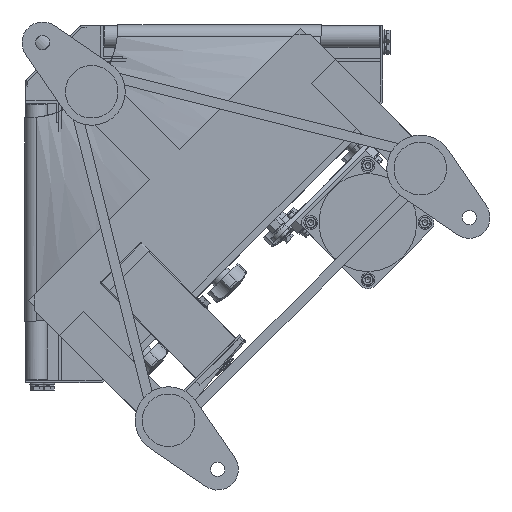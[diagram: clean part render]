
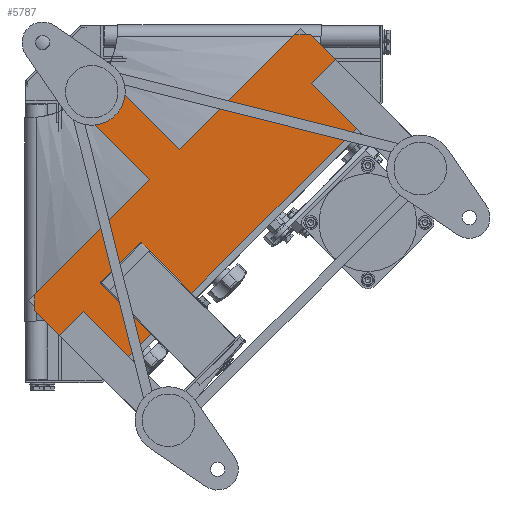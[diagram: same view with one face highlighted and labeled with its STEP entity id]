
A CAD part, front view. The second image highlights one B-rep face of the part: STEP entity #5787.
In plain terms, the highlighted planar face has unit normal (0, -1, 0).
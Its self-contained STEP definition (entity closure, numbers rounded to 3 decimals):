
#470 = VECTOR ( 'NONE', #28046, 1000. ) ;
#2544 = EDGE_CURVE ( 'NONE', #38639, #13959, #11730, .T. ) ;
#2603 = ORIENTED_EDGE ( 'NONE', *, *, #24976, .F. ) ;
#2790 = VERTEX_POINT ( 'NONE', #18233 ) ;
#3418 = ORIENTED_EDGE ( 'NONE', *, *, #36427, .T. ) ;
#3494 = DIRECTION ( 'NONE',  ( 0., 0., -1. ) ) ;
#3578 = CARTESIAN_POINT ( 'NONE',  ( 12.728, -167.5, -39.598 ) ) ;
#4856 = ORIENTED_EDGE ( 'NONE', *, *, #20957, .T. ) ;
#5787 = ADVANCED_FACE ( 'NONE', ( #52375 ), #17433, .T. ) ;
#5843 = VERTEX_POINT ( 'NONE', #34835 ) ;
#5934 = CARTESIAN_POINT ( 'NONE',  ( 245.012, -167.5, -8.132 ) ) ;
#6738 = DIRECTION ( 'NONE',  ( 0.707, 0., -0.707 ) ) ;
#7758 = ORIENTED_EDGE ( 'NONE', *, *, #2544, .T. ) ;
#7765 = DIRECTION ( 'NONE',  ( 0.707, 0., 0.707 ) ) ;
#9272 = LINE ( 'NONE', #17632, #57408 ) ;
#9826 = VECTOR ( 'NONE', #54470, 1000. ) ;
#10572 = LINE ( 'NONE', #32714, #21249 ) ;
#11456 = DIRECTION ( 'NONE',  ( -0.707, 0., -0.707 ) ) ;
#11730 = LINE ( 'NONE', #25745, #53501 ) ;
#11866 = VERTEX_POINT ( 'NONE', #31348 ) ;
#12815 = CARTESIAN_POINT ( 'NONE',  ( 8.132, -167.5, -245.012 ) ) ;
#13044 = DIRECTION ( 'NONE',  ( -0.707, 0., 0.707 ) ) ;
#13959 = VERTEX_POINT ( 'NONE', #37089 ) ;
#14790 = CARTESIAN_POINT ( 'NONE',  ( 39.598, -167.5, -12.728 ) ) ;
#15273 = DIRECTION ( 'NONE',  ( 0.707, 0., -0.707 ) ) ;
#15346 = VERTEX_POINT ( 'NONE', #28750 ) ;
#15620 = ORIENTED_EDGE ( 'NONE', *, *, #41432, .T. ) ;
#16642 = VECTOR ( 'NONE', #7765, 1000. ) ;
#17433 = PLANE ( 'NONE',  #18665 ) ;
#17632 = CARTESIAN_POINT ( 'NONE',  ( 259.155, -167.5, -8.132 ) ) ;
#18233 = CARTESIAN_POINT ( 'NONE',  ( 12.728, -167.5, -39.598 ) ) ;
#18665 = AXIS2_PLACEMENT_3D ( 'NONE', #30661, #40170, #3494 ) ;
#20490 = VERTEX_POINT ( 'NONE', #38413 ) ;
#20721 = EDGE_CURVE ( 'NONE', #5843, #25100, #30394, .T. ) ;
#20957 = EDGE_CURVE ( 'NONE', #15346, #11866, #45235, .T. ) ;
#21249 = VECTOR ( 'NONE', #15273, 1000. ) ;
#24976 = EDGE_CURVE ( 'NONE', #2790, #40043, #33559, .T. ) ;
#24984 = VECTOR ( 'NONE', #6738, 1000. ) ;
#25100 = VERTEX_POINT ( 'NONE', #40251 ) ;
#25745 = CARTESIAN_POINT ( 'NONE',  ( 8.132, -167.5, -245.012 ) ) ;
#25899 = ORIENTED_EDGE ( 'NONE', *, *, #26097, .T. ) ;
#26097 = EDGE_CURVE ( 'NONE', #11866, #5843, #10572, .T. ) ;
#26298 = EDGE_CURVE ( 'NONE', #20490, #15346, #50874, .T. ) ;
#26535 = EDGE_CURVE ( 'NONE', #40043, #13959, #37673, .T. ) ;
#28046 = DIRECTION ( 'NONE',  ( -0.707, 0., 0.707 ) ) ;
#28750 = CARTESIAN_POINT ( 'NONE',  ( 8.132, -167.5, -245.012 ) ) ;
#28846 = LINE ( 'NONE', #54880, #470 ) ;
#29461 = EDGE_CURVE ( 'NONE', #20490, #2790, #28846, .T. ) ;
#30394 = LINE ( 'NONE', #32667, #41010 ) ;
#30661 = CARTESIAN_POINT ( 'NONE',  ( 0., -167.5, 0. ) ) ;
#31348 = CARTESIAN_POINT ( 'NONE',  ( 8.132, -167.5, -259.155 ) ) ;
#32667 = CARTESIAN_POINT ( 'NONE',  ( 71.771, -167.5, -322.794 ) ) ;
#32714 = CARTESIAN_POINT ( 'NONE',  ( 8.132, -167.5, -259.155 ) ) ;
#33160 = VECTOR ( 'NONE', #42707, 1000. ) ;
#33559 = LINE ( 'NONE', #3578, #16642 ) ;
#34835 = CARTESIAN_POINT ( 'NONE',  ( 71.771, -167.5, -322.794 ) ) ;
#35549 = VERTEX_POINT ( 'NONE', #45491 ) ;
#36427 = EDGE_CURVE ( 'NONE', #35549, #38639, #55319, .T. ) ;
#37089 = CARTESIAN_POINT ( 'NONE',  ( 140.007, -167.5, -113.137 ) ) ;
#37673 = LINE ( 'NONE', #51847, #24984 ) ;
#38024 = DIRECTION ( 'NONE',  ( -1., 0., 0. ) ) ;
#38413 = CARTESIAN_POINT ( 'NONE',  ( 113.137, -167.5, -140.007 ) ) ;
#38639 = VERTEX_POINT ( 'NONE', #50992 ) ;
#39427 = ORIENTED_EDGE ( 'NONE', *, *, #29461, .F. ) ;
#40043 = VERTEX_POINT ( 'NONE', #14790 ) ;
#40170 = DIRECTION ( 'NONE',  ( 0., -1., 0. ) ) ;
#40251 = CARTESIAN_POINT ( 'NONE',  ( 322.794, -167.5, -71.771 ) ) ;
#41010 = VECTOR ( 'NONE', #46114, 1000. ) ;
#41432 = EDGE_CURVE ( 'NONE', #25100, #35549, #9272, .T. ) ;
#42519 = CARTESIAN_POINT ( 'NONE',  ( 8.132, -167.5, -259.155 ) ) ;
#42707 = DIRECTION ( 'NONE',  ( 0., 0., -1. ) ) ;
#43388 = VECTOR ( 'NONE', #38024, 1000. ) ;
#45235 = LINE ( 'NONE', #42519, #33160 ) ;
#45491 = CARTESIAN_POINT ( 'NONE',  ( 259.155, -167.5, -8.132 ) ) ;
#46114 = DIRECTION ( 'NONE',  ( 0.707, 0., 0.707 ) ) ;
#50577 = ORIENTED_EDGE ( 'NONE', *, *, #26535, .F. ) ;
#50866 = ORIENTED_EDGE ( 'NONE', *, *, #26298, .T. ) ;
#50874 = LINE ( 'NONE', #12815, #9826 ) ;
#50992 = CARTESIAN_POINT ( 'NONE',  ( 245.012, -167.5, -8.132 ) ) ;
#51847 = CARTESIAN_POINT ( 'NONE',  ( 39.598, -167.5, -12.728 ) ) ;
#52375 = FACE_OUTER_BOUND ( 'NONE', #52405, .T. ) ;
#52405 = EDGE_LOOP ( 'NONE', ( #39427, #50866, #4856, #25899, #52637, #15620, #3418, #7758, #50577, #2603 ) ) ;
#52637 = ORIENTED_EDGE ( 'NONE', *, *, #20721, .T. ) ;
#53501 = VECTOR ( 'NONE', #11456, 1000. ) ;
#54470 = DIRECTION ( 'NONE',  ( -0.707, 0., -0.707 ) ) ;
#54880 = CARTESIAN_POINT ( 'NONE',  ( 12.728, -167.5, -39.598 ) ) ;
#55319 = LINE ( 'NONE', #5934, #43388 ) ;
#57408 = VECTOR ( 'NONE', #13044, 1000. ) ;
